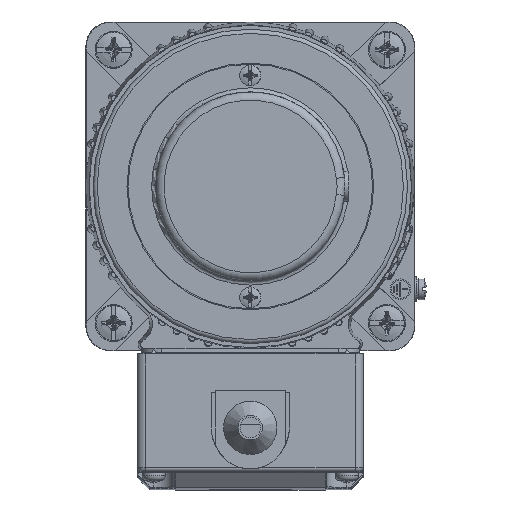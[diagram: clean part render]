
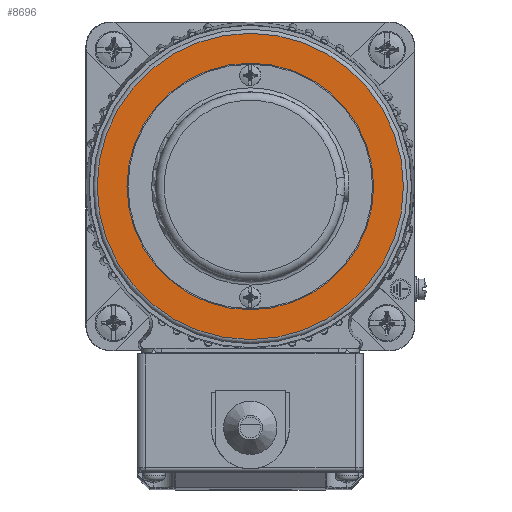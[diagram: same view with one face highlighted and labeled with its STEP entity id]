
A CAD part, left-side view. The second image highlights one B-rep face of the part: STEP entity #8696.
In plain terms, the highlighted planar face has unit normal (-1, 0, 0).
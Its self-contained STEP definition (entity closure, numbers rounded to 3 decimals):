
#3033=PLANE('',#29473);
#8696=ADVANCED_FACE('',(#9592,#9593),#3033,.F.);
#9592=FACE_BOUND('',#11289,.T.);
#9593=FACE_BOUND('',#11290,.T.);
#11289=EDGE_LOOP('',(#18135));
#11290=EDGE_LOOP('',(#18136));
#18135=ORIENTED_EDGE('',*,*,#25411,.T.);
#18136=ORIENTED_EDGE('',*,*,#25270,.F.);
#21623=VERTEX_POINT('',#46601);
#21704=VERTEX_POINT('',#47210);
#25270=EDGE_CURVE('',#21623,#21623,#27160,.T.);
#25411=EDGE_CURVE('',#21704,#21704,#27191,.T.);
#27160=CIRCLE('',#29391,30.);
#27191=CIRCLE('',#29472,37.25);
#29391=AXIS2_PLACEMENT_3D('',#46600,#35269,#35270);
#29472=AXIS2_PLACEMENT_3D('',#47209,#35486,#35487);
#29473=AXIS2_PLACEMENT_3D('',#47211,#35488,#35489);
#35269=DIRECTION('',(-1.,0.,0.));
#35270=DIRECTION('',(0.,0.,1.));
#35486=DIRECTION('',(-1.,0.,0.));
#35487=DIRECTION('',(0.,0.,-1.));
#35488=DIRECTION('',(1.,0.,0.));
#35489=DIRECTION('',(0.,0.,-1.));
#46600=CARTESIAN_POINT('',(-86.,40.,40.));
#46601=CARTESIAN_POINT('',(-86.,40.,70.));
#47209=CARTESIAN_POINT('',(-86.,40.,40.));
#47210=CARTESIAN_POINT('',(-86.,40.,2.75));
#47211=CARTESIAN_POINT('',(-86.,40.,78.25));
